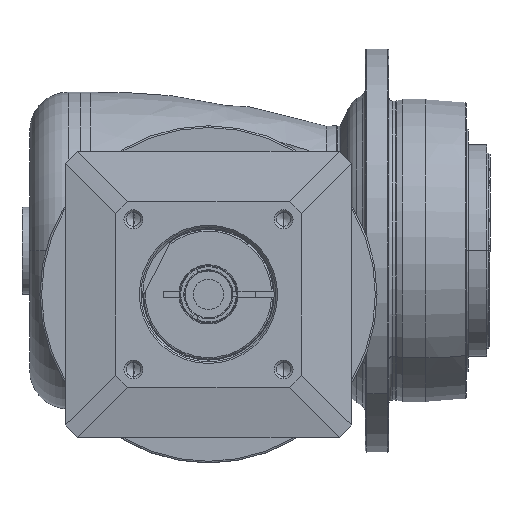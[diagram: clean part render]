
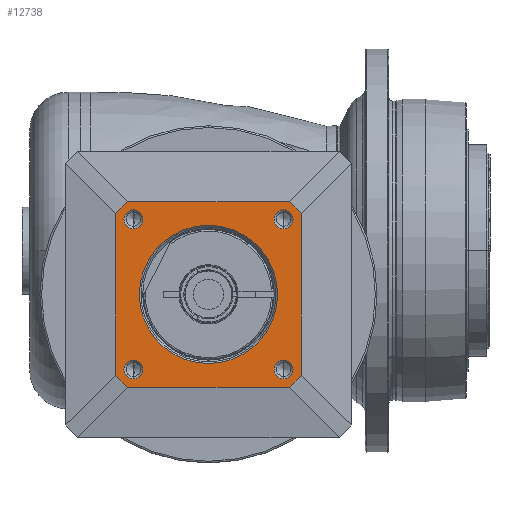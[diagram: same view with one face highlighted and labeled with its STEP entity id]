
A CAD part, front view. The second image highlights one B-rep face of the part: STEP entity #12738.
In plain terms, the highlighted planar face has unit normal (0, -1, 0) as drawn and (0, 0, 1) by its records, which use the part's own axes.
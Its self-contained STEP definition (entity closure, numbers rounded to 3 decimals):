
#11511=CARTESIAN_POINT('',(0.,0.,
27.));
#11512=DIRECTION('',(0.,0.,-1.));
#11513=DIRECTION('',(0.,-1.,0.));
#11514=AXIS2_PLACEMENT_3D('',#11511,#11512,#11513);
#11516=CARTESIAN_POINT('',(0.,0.,
27.));
#11517=DIRECTION('',(0.,0.,-1.));
#11518=DIRECTION('',(0.,1.,0.));
#11519=AXIS2_PLACEMENT_3D('',#11516,#11517,#11518);
#11521=DIRECTION('',(1.,0.,0.));
#11522=VECTOR('',#11521,48.);
#11523=CARTESIAN_POINT('',(-24.,27.5,27.));
#11524=LINE('',#11523,#11522);
#11525=CARTESIAN_POINT('',(0.,0.,27.));
#11526=DIRECTION('',(0.,0.,1.));
#11527=DIRECTION('',(0.753,0.658,0.));
#11528=AXIS2_PLACEMENT_3D('',#11525,#11526,#11527);
#11530=DIRECTION('',(0.,1.,0.));
#11531=VECTOR('',#11530,48.);
#11532=CARTESIAN_POINT('',(27.5,-24.,27.));
#11533=LINE('',#11532,#11531);
#11534=DIRECTION('',(1.,0.,0.));
#11535=VECTOR('',#11534,48.);
#11536=CARTESIAN_POINT('',(-24.,-27.5,27.));
#11537=LINE('',#11536,#11535);
#11538=CARTESIAN_POINT('',(0.,0.,27.));
#11539=DIRECTION('',(0.,0.,1.));
#11540=DIRECTION('',(-0.753,-0.658,0.));
#11541=AXIS2_PLACEMENT_3D('',#11538,#11539,#11540);
#11543=DIRECTION('',(0.,1.,0.));
#11544=VECTOR('',#11543,48.);
#11545=CARTESIAN_POINT('',(-27.5,-24.,27.));
#11546=LINE('',#11545,#11544);
#11561=CARTESIAN_POINT('',(0.,0.,27.));
#11562=DIRECTION('',(0.,0.,1.));
#11563=DIRECTION('',(-0.658,0.753,0.));
#11564=AXIS2_PLACEMENT_3D('',#11561,#11562,#11563);
#11571=CARTESIAN_POINT('',(0.,0.,27.));
#11572=DIRECTION('',(0.,0.,1.));
#11573=DIRECTION('',(0.658,-0.753,0.));
#11574=AXIS2_PLACEMENT_3D('',#11571,#11572,#11573);
#11588=CARTESIAN_POINT('',(-24.,27.5,27.));
#11680=CARTESIAN_POINT('',(27.5,-24.,27.));
#11708=CARTESIAN_POINT('',(24.,-27.5,27.));
#11748=CARTESIAN_POINT('',(-27.5,24.,27.));
#11757=CARTESIAN_POINT('',(-22.274,22.274,27.));
#11758=DIRECTION('',(0.,0.,1.));
#11759=DIRECTION('',(-1.,0.,0.));
#11760=AXIS2_PLACEMENT_3D('',#11757,#11758,#11759);
#11775=CARTESIAN_POINT('',(-22.274,22.274,27.));
#11776=DIRECTION('',(0.,0.,1.));
#11777=DIRECTION('',(1.,0.,0.));
#11778=AXIS2_PLACEMENT_3D('',#11775,#11776,#11777);
#11811=CARTESIAN_POINT('',(22.274,22.274,27.));
#11812=DIRECTION('',(0.,0.,1.));
#11813=DIRECTION('',(-1.,0.,0.));
#11814=AXIS2_PLACEMENT_3D('',#11811,#11812,#11813);
#11829=CARTESIAN_POINT('',(22.274,22.274,27.));
#11830=DIRECTION('',(0.,0.,1.));
#11831=DIRECTION('',(1.,0.,0.));
#11832=AXIS2_PLACEMENT_3D('',#11829,#11830,#11831);
#11865=CARTESIAN_POINT('',(22.274,-22.274,27.));
#11866=DIRECTION('',(0.,0.,1.));
#11867=DIRECTION('',(-1.,0.,0.));
#11868=AXIS2_PLACEMENT_3D('',#11865,#11866,#11867);
#11883=CARTESIAN_POINT('',(22.274,-22.274,27.));
#11884=DIRECTION('',(0.,0.,1.));
#11885=DIRECTION('',(1.,0.,0.));
#11886=AXIS2_PLACEMENT_3D('',#11883,#11884,#11885);
#11919=CARTESIAN_POINT('',(-22.274,-22.274,27.));
#11920=DIRECTION('',(0.,0.,1.));
#11921=DIRECTION('',(-1.,0.,0.));
#11922=AXIS2_PLACEMENT_3D('',#11919,#11920,#11921);
#11937=CARTESIAN_POINT('',(-22.274,-22.274,27.));
#11938=DIRECTION('',(0.,0.,1.));
#11939=DIRECTION('',(1.,0.,0.));
#11940=AXIS2_PLACEMENT_3D('',#11937,#11938,#11939);
#12027=CARTESIAN_POINT('',(-25.074,22.274,27.));
#12028=CARTESIAN_POINT('',(-19.474,22.274,27.));
#12029=VERTEX_POINT('',#12027);
#12030=VERTEX_POINT('',#12028);
#12053=CARTESIAN_POINT('',(-27.5,-24.,27.));
#12054=CARTESIAN_POINT('',(-24.,-27.5,27.));
#12055=VERTEX_POINT('',#12053);
#12056=VERTEX_POINT('',#12054);
#12057=CARTESIAN_POINT('',(27.5,24.,27.));
#12058=CARTESIAN_POINT('',(24.,27.5,27.));
#12059=VERTEX_POINT('',#12057);
#12060=VERTEX_POINT('',#12058);
#12069=VERTEX_POINT('',#11588);
#12072=VERTEX_POINT('',#11680);
#12073=VERTEX_POINT('',#11708);
#12076=VERTEX_POINT('',#11748);
#12085=CARTESIAN_POINT('',(25.074,22.274,27.));
#12086=CARTESIAN_POINT('',(19.474,22.274,27.));
#12087=VERTEX_POINT('',#12085);
#12088=VERTEX_POINT('',#12086);
#12093=CARTESIAN_POINT('',(25.074,-22.274,27.));
#12094=CARTESIAN_POINT('',(19.474,-22.274,27.));
#12095=VERTEX_POINT('',#12093);
#12096=VERTEX_POINT('',#12094);
#12101=CARTESIAN_POINT('',(-19.474,-22.274,27.));
#12102=CARTESIAN_POINT('',(-25.074,-22.274,27.));
#12103=VERTEX_POINT('',#12101);
#12104=VERTEX_POINT('',#12102);
#12109=CARTESIAN_POINT('',(0.,-20.5,27.));
#12110=CARTESIAN_POINT('',(0.,20.5,27.));
#12111=VERTEX_POINT('',#12109);
#12112=VERTEX_POINT('',#12110);
#12686=CARTESIAN_POINT('',(0.,0.,27.));
#12687=DIRECTION('',(0.,0.,1.));
#12688=DIRECTION('',(1.,0.,0.));
#12689=AXIS2_PLACEMENT_3D('',#12686,#12687,#12688);
#12690=PLANE('',#12689);
#12692=ORIENTED_EDGE('',*,*,#12691,.F.);
#12694=ORIENTED_EDGE('',*,*,#12693,.T.);
#12696=ORIENTED_EDGE('',*,*,#12695,.F.);
#12698=ORIENTED_EDGE('',*,*,#12697,.F.);
#12700=ORIENTED_EDGE('',*,*,#12699,.F.);
#12702=ORIENTED_EDGE('',*,*,#12701,.F.);
#12704=ORIENTED_EDGE('',*,*,#12703,.F.);
#12706=ORIENTED_EDGE('',*,*,#12705,.T.);
#12707=EDGE_LOOP('',(#12692,#12694,#12696,#12698,#12700,#12702,#12704,#12706));
#12708=FACE_OUTER_BOUND('',#12707,.F.);
#12710=ORIENTED_EDGE('',*,*,#12709,.F.);
#12711=ORIENTED_EDGE('',*,*,#12676,.F.);
#12712=EDGE_LOOP('',(#12710,#12711));
#12713=FACE_BOUND('',#12712,.F.);
#12715=ORIENTED_EDGE('',*,*,#12714,.T.);
#12717=ORIENTED_EDGE('',*,*,#12716,.T.);
#12718=EDGE_LOOP('',(#12715,#12717));
#12719=FACE_BOUND('',#12718,.F.);
#12721=ORIENTED_EDGE('',*,*,#12720,.T.);
#12723=ORIENTED_EDGE('',*,*,#12722,.T.);
#12724=EDGE_LOOP('',(#12721,#12723));
#12725=FACE_BOUND('',#12724,.F.);
#12727=ORIENTED_EDGE('',*,*,#12726,.T.);
#12729=ORIENTED_EDGE('',*,*,#12728,.T.);
#12730=EDGE_LOOP('',(#12727,#12729));
#12731=FACE_BOUND('',#12730,.F.);
#12733=ORIENTED_EDGE('',*,*,#12732,.T.);
#12735=ORIENTED_EDGE('',*,*,#12734,.T.);
#12736=EDGE_LOOP('',(#12733,#12735));
#12737=FACE_BOUND('',#12736,.F.);
#12738=ADVANCED_FACE('',(#12708,#12713,#12719,#12725,#12731,#12737),#12690,.T.);
#11515=CIRCLE('',#11514,20.5);
#11520=CIRCLE('',#11519,20.5);
#11529=CIRCLE('',#11528,36.5);
#11542=CIRCLE('',#11541,36.5);
#11565=CIRCLE('',#11564,36.5);
#11575=CIRCLE('',#11574,36.5);
#11761=CIRCLE('',#11760,2.8);
#11779=CIRCLE('',#11778,2.8);
#11815=CIRCLE('',#11814,2.8);
#11833=CIRCLE('',#11832,2.8);
#11869=CIRCLE('',#11868,2.8);
#11887=CIRCLE('',#11886,2.8);
#11923=CIRCLE('',#11922,2.8);
#11941=CIRCLE('',#11940,2.8);
#12676=EDGE_CURVE('',#12112,#12111,#11520,.T.);
#12691=EDGE_CURVE('',#12069,#12076,#11565,.T.);
#12693=EDGE_CURVE('',#12069,#12060,#11524,.T.);
#12695=EDGE_CURVE('',#12059,#12060,#11529,.T.);
#12697=EDGE_CURVE('',#12072,#12059,#11533,.T.);
#12699=EDGE_CURVE('',#12073,#12072,#11575,.T.);
#12701=EDGE_CURVE('',#12056,#12073,#11537,.T.);
#12703=EDGE_CURVE('',#12055,#12056,#11542,.T.);
#12705=EDGE_CURVE('',#12055,#12076,#11546,.T.);
#12709=EDGE_CURVE('',#12111,#12112,#11515,.T.);
#12714=EDGE_CURVE('',#12029,#12030,#11761,.T.);
#12716=EDGE_CURVE('',#12030,#12029,#11779,.T.);
#12720=EDGE_CURVE('',#12088,#12087,#11815,.T.);
#12722=EDGE_CURVE('',#12087,#12088,#11833,.T.);
#12726=EDGE_CURVE('',#12096,#12095,#11869,.T.);
#12728=EDGE_CURVE('',#12095,#12096,#11887,.T.);
#12732=EDGE_CURVE('',#12104,#12103,#11923,.T.);
#12734=EDGE_CURVE('',#12103,#12104,#11941,.T.);
